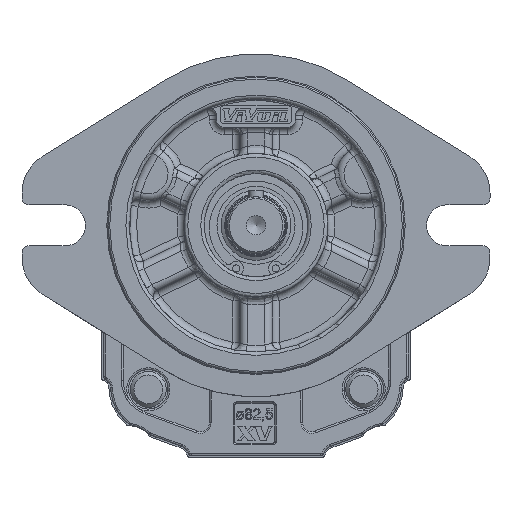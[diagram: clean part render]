
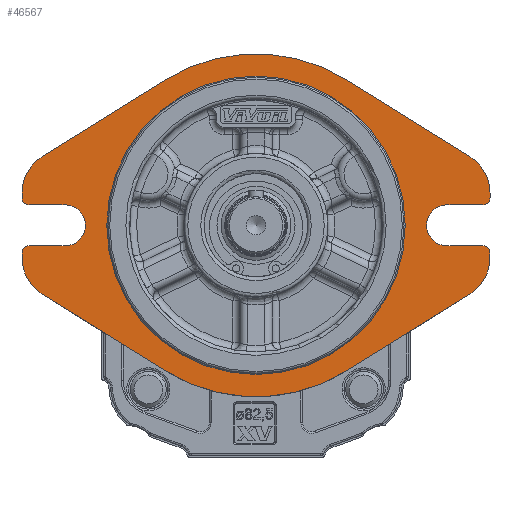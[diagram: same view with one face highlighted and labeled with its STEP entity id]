
A CAD part, front view. The second image highlights one B-rep face of the part: STEP entity #46567.
In plain terms, the highlighted planar face has unit normal (0, -1, 0).
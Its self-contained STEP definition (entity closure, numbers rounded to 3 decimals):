
#2719=LINE('',#65021,#4750);
#2723=LINE('',#65033,#4754);
#2724=LINE('',#65035,#4755);
#2731=LINE('',#65054,#4762);
#2732=LINE('',#65056,#4763);
#2739=LINE('',#65085,#4770);
#2740=LINE('',#65090,#4771);
#2741=LINE('',#65094,#4772);
#2742=LINE('',#65097,#4773);
#2743=LINE('',#65101,#4774);
#2744=LINE('',#65105,#4775);
#2745=LINE('',#65109,#4776);
#4750=VECTOR('',#53580,1000.);
#4754=VECTOR('',#53592,1000.);
#4755=VECTOR('',#53595,1000.);
#4762=VECTOR('',#53610,1000.);
#4763=VECTOR('',#53613,1000.);
#4770=VECTOR('',#53642,1000.);
#4771=VECTOR('',#53645,1000.);
#4772=VECTOR('',#53648,1000.);
#4773=VECTOR('',#53653,1000.);
#4774=VECTOR('',#53656,1000.);
#4775=VECTOR('',#53659,1000.);
#4776=VECTOR('',#53662,1000.);
#6400=PLANE('',#49010);
#9890=ORIENTED_EDGE('',*,*,#18593,.T.);
#9891=ORIENTED_EDGE('',*,*,#18594,.F.);
#9892=ORIENTED_EDGE('',*,*,#18595,.T.);
#9893=ORIENTED_EDGE('',*,*,#18596,.F.);
#9894=ORIENTED_EDGE('',*,*,#18597,.F.);
#9895=ORIENTED_EDGE('',*,*,#18598,.F.);
#9896=ORIENTED_EDGE('',*,*,#18514,.F.);
#9897=ORIENTED_EDGE('',*,*,#18563,.F.);
#9898=ORIENTED_EDGE('',*,*,#18566,.F.);
#9899=ORIENTED_EDGE('',*,*,#18569,.F.);
#9900=ORIENTED_EDGE('',*,*,#18599,.T.);
#9901=ORIENTED_EDGE('',*,*,#18570,.F.);
#9902=ORIENTED_EDGE('',*,*,#18576,.F.);
#9903=ORIENTED_EDGE('',*,*,#18579,.F.);
#9904=ORIENTED_EDGE('',*,*,#18600,.T.);
#9905=ORIENTED_EDGE('',*,*,#18580,.F.);
#9906=ORIENTED_EDGE('',*,*,#18592,.F.);
#9907=ORIENTED_EDGE('',*,*,#18601,.F.);
#9908=ORIENTED_EDGE('',*,*,#18602,.F.);
#9909=ORIENTED_EDGE('',*,*,#18603,.F.);
#9910=ORIENTED_EDGE('',*,*,#18604,.F.);
#9911=ORIENTED_EDGE('',*,*,#18605,.F.);
#9912=ORIENTED_EDGE('',*,*,#18606,.T.);
#9913=ORIENTED_EDGE('',*,*,#18607,.F.);
#9914=ORIENTED_EDGE('',*,*,#18608,.F.);
#18514=EDGE_CURVE('',#23013,#23014,#25601,.T.);
#18563=EDGE_CURVE('',#23056,#23013,#2719,.T.);
#18566=EDGE_CURVE('',#23058,#23056,#25629,.T.);
#18569=EDGE_CURVE('',#23060,#23058,#2723,.T.);
#18570=EDGE_CURVE('',#23061,#23062,#2724,.T.);
#18576=EDGE_CURVE('',#23066,#23061,#25631,.T.);
#18579=EDGE_CURVE('',#23068,#23066,#2731,.T.);
#18580=EDGE_CURVE('',#23069,#23070,#2732,.T.);
#18592=EDGE_CURVE('',#23078,#23069,#25637,.T.);
#18593=EDGE_CURVE('',#23079,#23079,#25638,.T.);
#18594=EDGE_CURVE('',#23080,#23081,#2739,.T.);
#18595=EDGE_CURVE('',#23080,#23082,#25639,.F.);
#18596=EDGE_CURVE('',#23083,#23082,#2740,.T.);
#18597=EDGE_CURVE('',#23084,#23083,#25640,.T.);
#18598=EDGE_CURVE('',#23014,#23084,#2741,.T.);
#18599=EDGE_CURVE('',#23060,#23062,#25641,.F.);
#18600=EDGE_CURVE('',#23068,#23070,#25642,.F.);
#18601=EDGE_CURVE('',#23085,#23078,#2742,.T.);
#18602=EDGE_CURVE('',#23086,#23085,#25643,.T.);
#18603=EDGE_CURVE('',#23087,#23086,#2743,.T.);
#18604=EDGE_CURVE('',#23088,#23087,#25644,.T.);
#18605=EDGE_CURVE('',#23089,#23088,#2744,.T.);
#18606=EDGE_CURVE('',#23089,#23090,#25645,.F.);
#18607=EDGE_CURVE('',#23091,#23090,#2745,.T.);
#18608=EDGE_CURVE('',#23081,#23091,#25646,.T.);
#23013=VERTEX_POINT('',#64921);
#23014=VERTEX_POINT('',#64923);
#23056=VERTEX_POINT('',#65020);
#23058=VERTEX_POINT('',#65026);
#23060=VERTEX_POINT('',#65032);
#23061=VERTEX_POINT('',#65036);
#23062=VERTEX_POINT('',#65037);
#23066=VERTEX_POINT('',#65047);
#23068=VERTEX_POINT('',#65053);
#23069=VERTEX_POINT('',#65057);
#23070=VERTEX_POINT('',#65058);
#23078=VERTEX_POINT('',#65080);
#23079=VERTEX_POINT('',#65084);
#23080=VERTEX_POINT('',#65086);
#23081=VERTEX_POINT('',#65087);
#23082=VERTEX_POINT('',#65089);
#23083=VERTEX_POINT('',#65091);
#23084=VERTEX_POINT('',#65093);
#23085=VERTEX_POINT('',#65098);
#23086=VERTEX_POINT('',#65100);
#23087=VERTEX_POINT('',#65102);
#23088=VERTEX_POINT('',#65104);
#23089=VERTEX_POINT('',#65106);
#23090=VERTEX_POINT('',#65108);
#23091=VERTEX_POINT('',#65110);
#25601=CIRCLE('',#48959,47.75);
#25629=CIRCLE('',#48993,12.);
#25631=CIRCLE('',#48998,5.7);
#25637=CIRCLE('',#49009,12.);
#25638=CIRCLE('',#49011,40.982);
#25639=CIRCLE('',#49012,2.);
#25640=CIRCLE('',#49013,12.);
#25641=CIRCLE('',#49014,2.);
#25642=CIRCLE('',#49015,2.);
#25643=CIRCLE('',#49016,47.75);
#25644=CIRCLE('',#49017,12.);
#25645=CIRCLE('',#49018,2.);
#25646=CIRCLE('',#49019,5.7);
#27283=EDGE_LOOP('',(#9890));
#27284=EDGE_LOOP('',(#9891,#9892,#9893,#9894,#9895,#9896,#9897,#9898,#9899,
#9900,#9901,#9902,#9903,#9904,#9905,#9906,#9907,#9908,#9909,#9910,#9911,
#9912,#9913,#9914));
#29550=FACE_BOUND('',#27283,.T.);
#29551=FACE_BOUND('',#27284,.T.);
#46567=ADVANCED_FACE('',(#29550,#29551),#6400,.F.);
#48959=AXIS2_PLACEMENT_3D('',#64922,#53496,#53497);
#48993=AXIS2_PLACEMENT_3D('',#65027,#53586,#53587);
#48998=AXIS2_PLACEMENT_3D('',#65048,#53604,#53605);
#49009=AXIS2_PLACEMENT_3D('',#65081,#53636,#53637);
#49010=AXIS2_PLACEMENT_3D('',#65082,#53638,#53639);
#49011=AXIS2_PLACEMENT_3D('',#65083,#53640,#53641);
#49012=AXIS2_PLACEMENT_3D('',#65088,#53643,#53644);
#49013=AXIS2_PLACEMENT_3D('',#65092,#53646,#53647);
#49014=AXIS2_PLACEMENT_3D('',#65095,#53649,#53650);
#49015=AXIS2_PLACEMENT_3D('',#65096,#53651,#53652);
#49016=AXIS2_PLACEMENT_3D('',#65099,#53654,#53655);
#49017=AXIS2_PLACEMENT_3D('',#65103,#53657,#53658);
#49018=AXIS2_PLACEMENT_3D('',#65107,#53660,#53661);
#49019=AXIS2_PLACEMENT_3D('',#65111,#53663,#53664);
#53496=DIRECTION('',(0.,1.,0.));
#53497=DIRECTION('',(-1.,0.,0.));
#53580=DIRECTION('',(-0.849,0.,-0.528));
#53586=DIRECTION('',(0.,1.,0.));
#53587=DIRECTION('',(-1.,0.,0.));
#53592=DIRECTION('',(0.,0.,-1.));
#53595=DIRECTION('',(1.,0.,0.));
#53604=DIRECTION('',(0.,-1.,0.));
#53605=DIRECTION('',(1.,0.,0.));
#53610=DIRECTION('',(-1.,0.,0.));
#53613=DIRECTION('',(0.,0.,-1.));
#53636=DIRECTION('',(0.,1.,0.));
#53637=DIRECTION('',(-1.,0.,0.));
#53638=DIRECTION('',(0.,1.,0.));
#53639=DIRECTION('',(0.,0.,-1.));
#53640=DIRECTION('',(0.,1.,0.));
#53641=DIRECTION('',(-1.,0.,0.));
#53642=DIRECTION('',(1.,0.,0.));
#53643=DIRECTION('',(0.,1.,0.));
#53644=DIRECTION('',(0.,0.,-1.));
#53645=DIRECTION('',(0.,0.,1.));
#53646=DIRECTION('',(0.,1.,0.));
#53647=DIRECTION('',(1.,0.,0.));
#53648=DIRECTION('',(-0.849,0.,0.528));
#53649=DIRECTION('',(0.,1.,0.));
#53650=DIRECTION('',(0.,0.,-1.));
#53651=DIRECTION('',(0.,1.,0.));
#53652=DIRECTION('',(0.,0.,-1.));
#53653=DIRECTION('',(0.849,0.,-0.528));
#53654=DIRECTION('',(0.,1.,0.));
#53655=DIRECTION('',(-1.,0.,0.));
#53656=DIRECTION('',(0.849,0.,0.528));
#53657=DIRECTION('',(0.,1.,0.));
#53658=DIRECTION('',(1.,0.,0.));
#53659=DIRECTION('',(0.,0.,1.));
#53660=DIRECTION('',(0.,1.,0.));
#53661=DIRECTION('',(0.,0.,-1.));
#53662=DIRECTION('',(-1.,0.,0.));
#53663=DIRECTION('',(0.,-1.,0.));
#53664=DIRECTION('',(-1.,0.,0.));
#64921=CARTESIAN_POINT('',(25.235,-19.,-24.837));
#64922=CARTESIAN_POINT('',(0.,-19.,15.7));
#64923=CARTESIAN_POINT('',(-25.235,-19.,-24.837));
#65020=CARTESIAN_POINT('',(59.532,-19.,-3.487));
#65021=CARTESIAN_POINT('',(59.532,-19.,-3.487));
#65026=CARTESIAN_POINT('',(65.19,-19.,6.7));
#65027=CARTESIAN_POINT('',(53.19,-19.,6.7));
#65032=CARTESIAN_POINT('',(65.19,-19.,8.));
#65033=CARTESIAN_POINT('',(65.19,-19.,6.7));
#65035=CARTESIAN_POINT('',(53.19,-19.,10.));
#65036=CARTESIAN_POINT('',(53.19,-19.,10.));
#65037=CARTESIAN_POINT('',(63.19,-19.,10.));
#65047=CARTESIAN_POINT('',(53.19,-19.,21.4));
#65048=CARTESIAN_POINT('',(53.19,-19.,15.7));
#65053=CARTESIAN_POINT('',(63.19,-19.,21.4));
#65054=CARTESIAN_POINT('',(53.19,-19.,21.4));
#65056=CARTESIAN_POINT('',(65.19,-19.,24.7));
#65057=CARTESIAN_POINT('',(65.19,-19.,24.7));
#65058=CARTESIAN_POINT('',(65.19,-19.,23.4));
#65080=CARTESIAN_POINT('',(59.532,-19.,34.887));
#65081=CARTESIAN_POINT('',(53.19,-19.,24.7));
#65082=CARTESIAN_POINT('',(0.,-19.,15.7));
#65083=CARTESIAN_POINT('',(0.,-19.,15.7));
#65084=CARTESIAN_POINT('',(-40.982,-19.,15.7));
#65085=CARTESIAN_POINT('',(-53.19,-19.,10.));
#65086=CARTESIAN_POINT('',(-63.19,-19.,10.));
#65087=CARTESIAN_POINT('',(-53.19,-19.,10.));
#65088=CARTESIAN_POINT('',(-63.19,-19.,8.));
#65089=CARTESIAN_POINT('',(-65.19,-19.,8.));
#65090=CARTESIAN_POINT('',(-65.19,-19.,6.7));
#65091=CARTESIAN_POINT('',(-65.19,-19.,6.7));
#65092=CARTESIAN_POINT('',(-53.19,-19.,6.7));
#65093=CARTESIAN_POINT('',(-59.532,-19.,-3.487));
#65094=CARTESIAN_POINT('',(-59.532,-19.,-3.487));
#65095=CARTESIAN_POINT('',(63.19,-19.,8.));
#65096=CARTESIAN_POINT('',(63.19,-19.,23.4));
#65097=CARTESIAN_POINT('',(25.235,-19.,56.237));
#65098=CARTESIAN_POINT('',(25.235,-19.,56.237));
#65099=CARTESIAN_POINT('',(0.,-19.,15.7));
#65100=CARTESIAN_POINT('',(-25.235,-19.,56.237));
#65101=CARTESIAN_POINT('',(-25.235,-19.,56.237));
#65102=CARTESIAN_POINT('',(-59.532,-19.,34.887));
#65103=CARTESIAN_POINT('',(-53.19,-19.,24.7));
#65104=CARTESIAN_POINT('',(-65.19,-19.,24.7));
#65105=CARTESIAN_POINT('',(-65.19,-19.,24.7));
#65106=CARTESIAN_POINT('',(-65.19,-19.,23.4));
#65107=CARTESIAN_POINT('',(-63.19,-19.,23.4));
#65108=CARTESIAN_POINT('',(-63.19,-19.,21.4));
#65109=CARTESIAN_POINT('',(-53.19,-19.,21.4));
#65110=CARTESIAN_POINT('',(-53.19,-19.,21.4));
#65111=CARTESIAN_POINT('',(-53.19,-19.,15.7));
